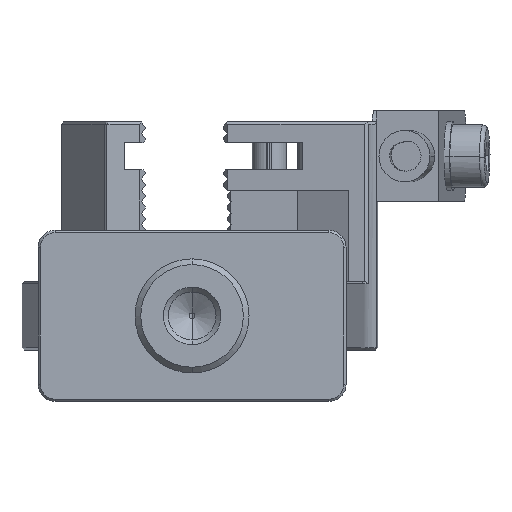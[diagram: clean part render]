
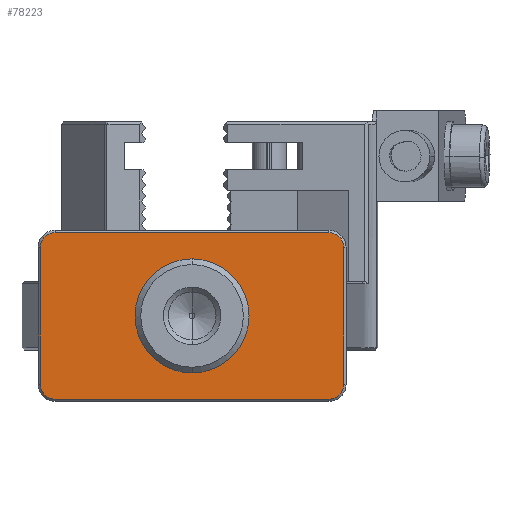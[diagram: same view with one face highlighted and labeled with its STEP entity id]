
A CAD part, front view. The second image highlights one B-rep face of the part: STEP entity #78223.
In plain terms, the highlighted planar face has unit normal (0, -1, 0).
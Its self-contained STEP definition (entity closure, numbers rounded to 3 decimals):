
#107 = ORIENTED_EDGE ( 'NONE', *, *, #12046, .T. ) ;
#2750 = VERTEX_POINT ( 'NONE', #114684 ) ;
#4054 = DIRECTION ( 'NONE',  ( 0., 0., -1. ) ) ;
#4147 = LINE ( 'NONE', #62290, #33036 ) ;
#5394 = AXIS2_PLACEMENT_3D ( 'NONE', #69339, #11123, #79117 ) ;
#7336 = CARTESIAN_POINT ( 'NONE',  ( -24.888, -23.942, 68.9 ) ) ;
#11123 = DIRECTION ( 'NONE',  ( 0., 1., 0. ) ) ;
#11888 = CIRCLE ( 'NONE', #52187, 5. ) ;
#12046 = EDGE_CURVE ( 'NONE', #95667, #120111, #4147, .T. ) ;
#12837 = DIRECTION ( 'NONE',  ( 0., -1., 0. ) ) ;
#14919 = VECTOR ( 'NONE', #37113, 1000. ) ;
#20020 = CIRCLE ( 'NONE', #89277, 1.3 ) ;
#20704 = CARTESIAN_POINT ( 'NONE',  ( -23.588, -23.942, 82.2 ) ) ;
#21213 = FACE_BOUND ( 'NONE', #54309, .T. ) ;
#22505 = CIRCLE ( 'NONE', #104325, 1.3 ) ;
#22641 = CARTESIAN_POINT ( 'NONE',  ( -24.888, -23.942, 80.9 ) ) ;
#25401 = ORIENTED_EDGE ( 'NONE', *, *, #46668, .T. ) ;
#29212 = EDGE_CURVE ( 'NONE', #40006, #98790, #20020, .T. ) ;
#29461 = DIRECTION ( 'NONE',  ( 0., -1., 0. ) ) ;
#30144 = CARTESIAN_POINT ( 'NONE',  ( 1.712, -23.942, 80.9 ) ) ;
#31564 = ORIENTED_EDGE ( 'NONE', *, *, #29212, .T. ) ;
#32200 = VERTEX_POINT ( 'NONE', #111805 ) ;
#33036 = VECTOR ( 'NONE', #4054, 1000. ) ;
#33187 = DIRECTION ( 'NONE',  ( 0., -1., 0. ) ) ;
#35304 = DIRECTION ( 'NONE',  ( 0., -1., 0. ) ) ;
#37113 = DIRECTION ( 'NONE',  ( 1., 0., 0. ) ) ;
#37740 = CIRCLE ( 'NONE', #119879, 1.3 ) ;
#39838 = CARTESIAN_POINT ( 'NONE',  ( 0.912, -23.942, 82.2 ) ) ;
#40006 = VERTEX_POINT ( 'NONE', #30144 ) ;
#40611 = EDGE_CURVE ( 'NONE', #117784, #101931, #71240, .T. ) ;
#41724 = CARTESIAN_POINT ( 'NONE',  ( -23.588, -23.942, 68.9 ) ) ;
#43420 = DIRECTION ( 'NONE',  ( 0., 1., 0. ) ) ;
#43827 = CIRCLE ( 'NONE', #100270, 1.3 ) ;
#45934 = ORIENTED_EDGE ( 'NONE', *, *, #50481, .T. ) ;
#46668 = EDGE_CURVE ( 'NONE', #96631, #95667, #37740, .T. ) ;
#50481 = EDGE_CURVE ( 'NONE', #98790, #96631, #90045, .T. ) ;
#51297 = AXIS2_PLACEMENT_3D ( 'NONE', #110524, #33187, #101259 ) ;
#51553 = DIRECTION ( 'NONE',  ( -1., 0., 0. ) ) ;
#52187 = AXIS2_PLACEMENT_3D ( 'NONE', #101722, #43420, #111403 ) ;
#54309 = EDGE_LOOP ( 'NONE', ( #77397, #73706 ) ) ;
#56420 = EDGE_CURVE ( 'NONE', #121163, #40006, #71604, .T. ) ;
#56798 = CARTESIAN_POINT ( 'NONE',  ( 0.412, -23.942, 82.2 ) ) ;
#62108 = PLANE ( 'NONE',  #51297 ) ;
#62267 = ORIENTED_EDGE ( 'NONE', *, *, #101951, .F. ) ;
#62290 = CARTESIAN_POINT ( 'NONE',  ( -24.888, -23.942, 82.4 ) ) ;
#63032 = ORIENTED_EDGE ( 'NONE', *, *, #79774, .T. ) ;
#64145 = VECTOR ( 'NONE', #69180, 1000. ) ;
#68541 = VECTOR ( 'NONE', #116364, 1000. ) ;
#69180 = DIRECTION ( 'NONE',  ( -1., 0., 0. ) ) ;
#69339 = CARTESIAN_POINT ( 'NONE',  ( -11.588, -23.942, 74.9 ) ) ;
#71039 = CARTESIAN_POINT ( 'NONE',  ( 0.412, -23.942, 80.9 ) ) ;
#71240 = CIRCLE ( 'NONE', #5394, 5. ) ;
#71604 = LINE ( 'NONE', #106657, #68541 ) ;
#73706 = ORIENTED_EDGE ( 'NONE', *, *, #102065, .T. ) ;
#77397 = ORIENTED_EDGE ( 'NONE', *, *, #40611, .T. ) ;
#78223 = ADVANCED_FACE ( 'NONE', ( #21213, #118460 ), #62108, .T. ) ;
#79117 = DIRECTION ( 'NONE',  ( 0., 0., -1. ) ) ;
#79774 = EDGE_CURVE ( 'NONE', #2750, #32200, #95524, .T. ) ;
#80823 = DIRECTION ( 'NONE',  ( 0., 0., 1. ) ) ;
#86694 = ORIENTED_EDGE ( 'NONE', *, *, #102154, .T. ) ;
#87761 = CARTESIAN_POINT ( 'NONE',  ( -23.588, -23.942, 80.9 ) ) ;
#89277 = AXIS2_PLACEMENT_3D ( 'NONE', #71039, #12837, #80823 ) ;
#89831 = CARTESIAN_POINT ( 'NONE',  ( -11.588, -23.942, 79.9 ) ) ;
#90045 = LINE ( 'NONE', #39838, #64145 ) ;
#91247 = ORIENTED_EDGE ( 'NONE', *, *, #56420, .T. ) ;
#93603 = CARTESIAN_POINT ( 'NONE',  ( 0.412, -23.942, 68.9 ) ) ;
#95524 = LINE ( 'NONE', #104754, #14919 ) ;
#95667 = VERTEX_POINT ( 'NONE', #22641 ) ;
#96631 = VERTEX_POINT ( 'NONE', #20704 ) ;
#97533 = DIRECTION ( 'NONE',  ( 0., 0., 1. ) ) ;
#98790 = VERTEX_POINT ( 'NONE', #56798 ) ;
#100270 = AXIS2_PLACEMENT_3D ( 'NONE', #41724, #109735, #51553 ) ;
#101259 = DIRECTION ( 'NONE',  ( 0., 0., -1. ) ) ;
#101722 = CARTESIAN_POINT ( 'NONE',  ( -11.588, -23.942, 74.9 ) ) ;
#101931 = VERTEX_POINT ( 'NONE', #89831 ) ;
#101951 = EDGE_CURVE ( 'NONE', #2750, #120111, #43827, .T. ) ;
#102065 = EDGE_CURVE ( 'NONE', #101931, #117784, #11888, .T. ) ;
#102154 = EDGE_CURVE ( 'NONE', #32200, #121163, #22505, .T. ) ;
#102759 = CARTESIAN_POINT ( 'NONE',  ( -11.588, -23.942, 69.9 ) ) ;
#102800 = CARTESIAN_POINT ( 'NONE',  ( 1.712, -23.942, 68.9 ) ) ;
#103371 = DIRECTION ( 'NONE',  ( -1., 0., 0. ) ) ;
#104325 = AXIS2_PLACEMENT_3D ( 'NONE', #93603, #35304, #103371 ) ;
#104754 = CARTESIAN_POINT ( 'NONE',  ( 0.912, -23.942, 67.6 ) ) ;
#106657 = CARTESIAN_POINT ( 'NONE',  ( 1.712, -23.942, 82.4 ) ) ;
#109735 = DIRECTION ( 'NONE',  ( 0., 1., 0. ) ) ;
#110524 = CARTESIAN_POINT ( 'NONE',  ( 0.912, -23.942, 82.4 ) ) ;
#111403 = DIRECTION ( 'NONE',  ( 0., 0., -1. ) ) ;
#111805 = CARTESIAN_POINT ( 'NONE',  ( 0.412, -23.942, 67.6 ) ) ;
#114684 = CARTESIAN_POINT ( 'NONE',  ( -23.588, -23.942, 67.6 ) ) ;
#116364 = DIRECTION ( 'NONE',  ( 0., 0., 1. ) ) ;
#116531 = EDGE_LOOP ( 'NONE', ( #31564, #45934, #25401, #107, #62267, #63032, #86694, #91247 ) ) ;
#117784 = VERTEX_POINT ( 'NONE', #102759 ) ;
#118460 = FACE_OUTER_BOUND ( 'NONE', #116531, .T. ) ;
#119879 = AXIS2_PLACEMENT_3D ( 'NONE', #87761, #29461, #97533 ) ;
#120111 = VERTEX_POINT ( 'NONE', #7336 ) ;
#121163 = VERTEX_POINT ( 'NONE', #102800 ) ;
